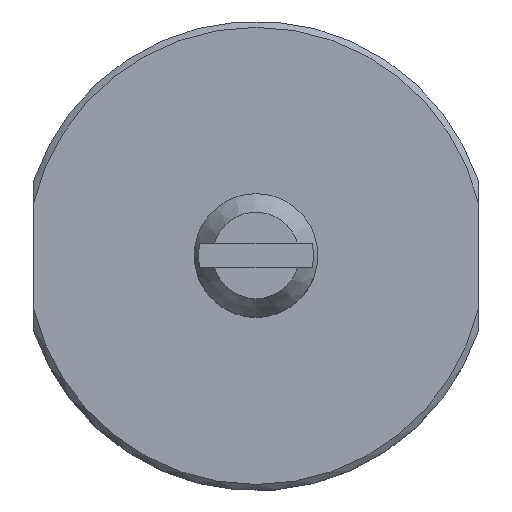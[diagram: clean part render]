
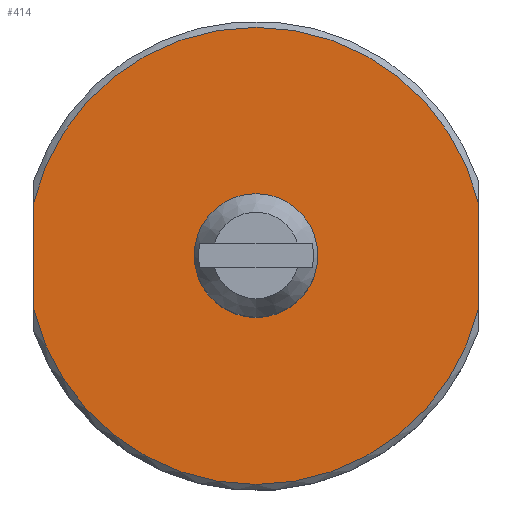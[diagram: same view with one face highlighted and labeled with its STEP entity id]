
A CAD part, top view. The second image highlights one B-rep face of the part: STEP entity #414.
In plain terms, the highlighted planar face has unit normal (0, 0, 1).
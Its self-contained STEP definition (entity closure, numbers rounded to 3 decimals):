
#35=FACE_BOUND('',#117,.T.);
#53=CIRCLE('',#449,18.5);
#54=CIRCLE('',#450,18.5);
#55=CIRCLE('',#451,4.4);
#84=FACE_OUTER_BOUND('',#116,.T.);
#116=EDGE_LOOP('',(#310,#311,#312,#313));
#117=EDGE_LOOP('',(#314));
#167=LINE('',#668,#179);
#171=LINE('',#693,#183);
#179=VECTOR('',#514,8.544);
#183=VECTOR('',#520,8.544);
#201=VERTEX_POINT('',#646);
#207=VERTEX_POINT('',#664);
#209=VERTEX_POINT('',#671);
#215=VERTEX_POINT('',#689);
#216=VERTEX_POINT('',#697);
#248=EDGE_CURVE('',#201,#207,#167,.T.);
#256=EDGE_CURVE('',#209,#215,#171,.T.);
#257=EDGE_CURVE('',#207,#209,#53,.T.);
#258=EDGE_CURVE('',#215,#201,#54,.T.);
#259=EDGE_CURVE('',#216,#216,#55,.T.);
#310=ORIENTED_EDGE('',*,*,#248,.T.);
#311=ORIENTED_EDGE('',*,*,#257,.T.);
#312=ORIENTED_EDGE('',*,*,#256,.T.);
#313=ORIENTED_EDGE('',*,*,#258,.T.);
#314=ORIENTED_EDGE('',*,*,#259,.F.);
#402=PLANE('',#448);
#414=ADVANCED_FACE('',(#84,#35),#402,.T.);
#448=AXIS2_PLACEMENT_3D('',#694,#521,#522);
#449=AXIS2_PLACEMENT_3D('',#695,#523,#524);
#450=AXIS2_PLACEMENT_3D('',#696,#525,#526);
#451=AXIS2_PLACEMENT_3D('',#698,#527,#528);
#514=DIRECTION('',(0.,-1.,0.));
#520=DIRECTION('',(0.,1.,0.));
#521=DIRECTION('center_axis',(0.,0.,1.));
#522=DIRECTION('ref_axis',(1.,0.,0.));
#523=DIRECTION('center_axis',(0.,0.,1.));
#524=DIRECTION('ref_axis',(0.,-1.,0.));
#525=DIRECTION('center_axis',(0.,0.,1.));
#526=DIRECTION('ref_axis',(0.,-1.,0.));
#527=DIRECTION('center_axis',(0.,0.,1.));
#528=DIRECTION('ref_axis',(0.,-1.,0.));
#646=CARTESIAN_POINT('',(-18.,4.272,0.));
#664=CARTESIAN_POINT('',(-18.,-4.272,0.));
#668=CARTESIAN_POINT('',(-18.,-8.766,0.));
#671=CARTESIAN_POINT('',(18.,-4.272,0.));
#689=CARTESIAN_POINT('',(18.,4.272,0.));
#693=CARTESIAN_POINT('',(18.,-2.684,0.));
#694=CARTESIAN_POINT('Origin',(0.,-11.45,0.));
#695=CARTESIAN_POINT('Origin',(0.,0.,0.));
#696=CARTESIAN_POINT('Origin',(0.,0.,0.));
#697=CARTESIAN_POINT('',(0.,-4.4,0.));
#698=CARTESIAN_POINT('Origin',(0.,0.,0.));
